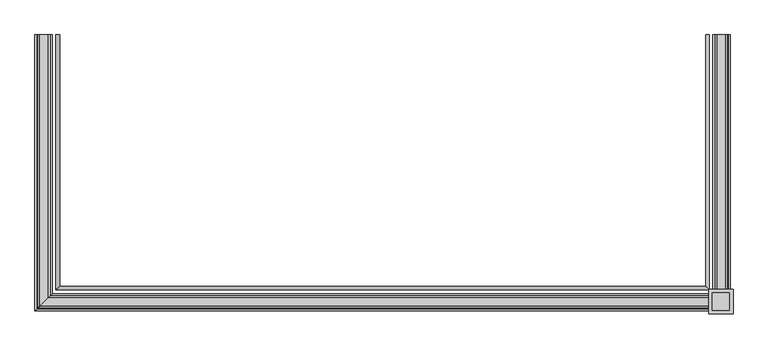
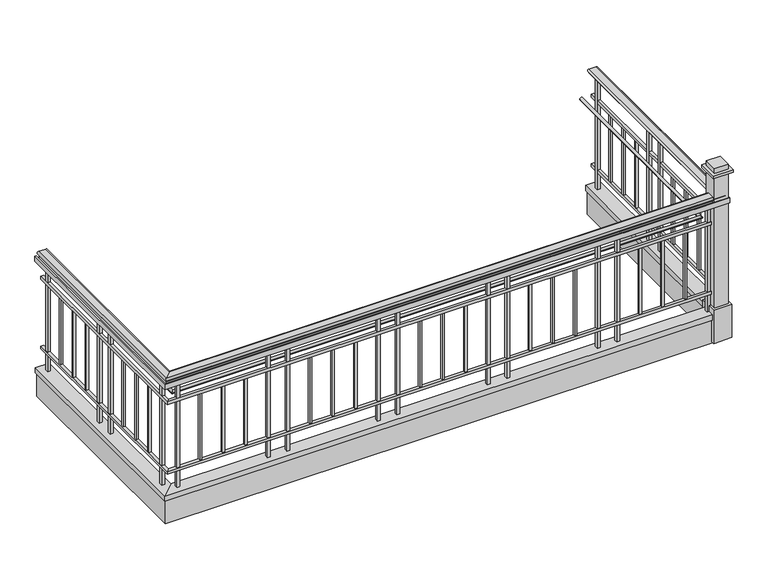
"""IFC4 building model written with IfcOpenShell, lengths in millimetres: railing geometry, Deco Type."""

from ifc_helpers import new_model, si_unit, frame, origin, place, context, project, spatial, polyline, circle_curve, ellipse_curve, outline, extrude, faceted_brep, source, transform, mapped, element, save
from ifc_brep_helpers import plane_surface, cylinder_surface, advanced_brep


def railing_eb418aec(model_context):
    return source(origin(), model_context, "Body", "SolidModel", [
        advanced_brep(
        [(-11325.7002872, -7864.1661799, 4146.55), (-11325.7002872, -7864.1661799, 4124.3248415), (-11325.7002872, -7864.1661799, 4114.8), (-11389.0500398, -7864.1661799, 4114.8), (-11389.0500398, -7864.1661799, 4124.261629), (-11389.0500398, -7864.1661799, 4146.55), (-11325.7002872, -9707.4039273, 4146.55), (-11325.7002872, -9707.4039273, 4124.3248415), (-11325.7002872, -9707.4039273, 4114.8), (-11389.0500398, -9770.7536799, 4114.8), (-11389.0500398, -9770.7536799, 4124.261629), (-11389.0500398, -9770.7536799, 4146.55), (-6640.6872924, -9707.4039273, 4146.55), (-6640.6872924, -9707.4039273, 4124.3248415), (-6640.6872924, -9707.4039273, 4114.8), (-6577.3375398, -9770.7536799, 4114.8), (-6577.3375398, -9770.7536799, 4124.261629), (-6577.3375398, -9770.7536799, 4146.55), (-6640.6872924, -7864.1661799, 4146.55), (-6577.3375398, -7864.1661799, 4146.55), (-6577.3375398, -7864.1661799, 4124.261629), (-6577.3375398, -7864.1661799, 4114.8), (-6640.6872924, -7864.1661799, 4114.8), (-6640.6872924, -7864.1661799, 4124.3248415)],
        [
            (0, 1, circle_curve(frame((-11325.7002872, -7864.1661799, 4135.4374207), z_axis=(0.0, 1.0, 0.0), x_axis=(-1.0, 0.0, 0.0)), 11.1125793)),
            (1, 2),
            (2, 3),
            (3, 4),
            (4, 5, circle_curve(frame((-11389.0500398, -7864.1661799, 4135.4058145), z_axis=(0.0, 1.0, 0.0), x_axis=(-1.0, 0.0, 0.0)), 11.1441855)),
            (5, 0),
            (0, 6),
            (6, 7, ellipse_curve(frame((-11325.7002872, -9707.4039273, 4135.4374207), z_axis=(-0.7071067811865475, 0.7071067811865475, 0.0), x_axis=(0.7071067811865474, 0.7071067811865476, 0.0)), 15.7155603, 11.1125793)),
            (7, 1),
            (7, 8),
            (8, 2),
            (8, 9),
            (9, 3),
            (9, 10),
            (10, 4),
            (10, 11, ellipse_curve(frame((-11389.0500398, -9770.7536799, 4135.4058145), z_axis=(-0.7071067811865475, 0.7071067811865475, 0.0), x_axis=(0.7071067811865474, 0.7071067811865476, 0.0)), 15.7602583, 11.1441855)),
            (11, 5),
            (11, 6),
            (6, 12),
            (12, 13, ellipse_curve(frame((-6640.6872924, -9707.4039273, 4135.4374207), z_axis=(-0.7071067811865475, -0.7071067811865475, 0.0), x_axis=(-0.7071067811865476, 0.7071067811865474, 0.0)), 15.7155603, 11.1125793)),
            (13, 7),
            (13, 14),
            (14, 8),
            (14, 15),
            (15, 9),
            (15, 16),
            (16, 10),
            (16, 17, ellipse_curve(frame((-6577.3375398, -9770.7536799, 4135.4058145), z_axis=(-0.7071067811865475, -0.7071067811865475, 0.0), x_axis=(-0.7071067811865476, 0.7071067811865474, 0.0)), 15.7602583, 11.1441855)),
            (17, 11),
            (17, 12),
            (18, 19),
            (19, 20, circle_curve(frame((-6577.3375398, -7864.1661799, 4135.4058145), z_axis=(0.0, 1.0, 0.0), x_axis=(1.0, 0.0, 0.0)), 11.1441855)),
            (20, 21),
            (21, 22),
            (22, 23),
            (23, 18, circle_curve(frame((-6640.6872924, -7864.1661799, 4135.4374207), z_axis=(0.0, 1.0, 0.0), x_axis=(1.0, 0.0, 0.0)), 11.1125793)),
            (12, 18),
            (23, 13),
            (22, 14),
            (21, 15),
            (20, 16),
            (19, 17),
        ],
        [
            plane_surface(frame((-11357.3000398, -7864.1661799, 4114.8), z_axis=(0.0, 1.0, 0.0), x_axis=(0.0, 0.0, -1.0))),
            cylinder_surface(frame((-11325.7002872, -7864.1661799, 4135.4374207), z_axis=(0.0, 1.0, 0.0), x_axis=(-1.0, 0.0, 0.0)), 11.1125793),
            plane_surface(frame((-11325.7002872, -7864.1661799, 4124.3248415), z_axis=(1.0, 0.0, 0.0), x_axis=(0.0, -1.0, 0.0))),
            plane_surface(frame((-11325.7002872, -7864.1661799, 4114.8), z_axis=(0.0, 0.0, -1.0), x_axis=(0.0, -1.0, 0.0))),
            plane_surface(frame((-11389.0500398, -7864.1661799, 4114.8), z_axis=(-1.0, 0.0, 0.0), x_axis=(0.0, -1.0, 0.0))),
            cylinder_surface(frame((-11389.0500398, -7864.1661799, 4135.4058145), z_axis=(0.0, 1.0, 0.0), x_axis=(-1.0, 0.0, 0.0)), 11.1441855),
            plane_surface(frame((-11389.0500398, -7864.1661799, 4146.55), z_axis=(0.0, 0.0, 1.0), x_axis=(0.0, -1.0, 0.0))),
            cylinder_surface(frame((-11357.3000398, -9707.4039273, 4135.4374207), z_axis=(-1.0, 0.0, 0.0), x_axis=(0.0, -1.0, 0.0)), 11.1125793),
            plane_surface(frame((-11325.7002872, -9707.4039273, 4124.3248415), z_axis=(0.0, 1.0, 0.0), x_axis=(1.0, 0.0, 0.0))),
            plane_surface(frame((-11325.7002872, -9707.4039273, 4114.8), z_axis=(0.0, 0.0, -1.0), x_axis=(1.0, 0.0, 0.0))),
            plane_surface(frame((-11389.0500398, -9770.7536799, 4114.8), z_axis=(0.0, -1.0, 0.0), x_axis=(1.0, 0.0, 0.0))),
            cylinder_surface(frame((-11357.3000398, -9770.7536799, 4135.4058145), z_axis=(-1.0, 0.0, 0.0), x_axis=(0.0, -1.0, 0.0)), 11.1441855),
            plane_surface(frame((-11389.0500398, -9770.7536799, 4146.55), z_axis=(0.0, 0.0, 1.0), x_axis=(1.0, 0.0, 0.0))),
            plane_surface(frame((-6609.0875398, -7864.1661799, 4114.8), z_axis=(0.0, 1.0, 0.0), x_axis=(0.0, 0.0, 1.0))),
            cylinder_surface(frame((-6640.6872924, -9739.0036799, 4135.4374207), z_axis=(0.0, -1.0, 0.0), x_axis=(1.0, 0.0, 0.0)), 11.1125793),
            plane_surface(frame((-6640.6872924, -9707.4039273, 4124.3248415), z_axis=(-1.0, 0.0, 0.0), x_axis=(0.0, 1.0, 0.0))),
            plane_surface(frame((-6640.6872924, -9707.4039273, 4114.8), z_axis=(0.0, 0.0, -1.0), x_axis=(0.0, 1.0, 0.0))),
            plane_surface(frame((-6577.3375398, -9770.7536799, 4114.8), z_axis=(1.0, 0.0, 0.0), x_axis=(0.0, 1.0, 0.0))),
            cylinder_surface(frame((-6577.3375398, -9739.0036799, 4135.4058145), z_axis=(0.0, -1.0, 0.0), x_axis=(1.0, 0.0, 0.0)), 11.1441855),
            plane_surface(frame((-6577.3375398, -9770.7536799, 4146.55), z_axis=(0.0, 0.0, 1.0), x_axis=(0.0, 1.0, 0.0))),
        ],
        [
            (0, [[1, 2, 3, 4, 5, 6]]),
            (1, [[-1, 7, 8, 9]]),
            (2, [[-2, -9, 10, 11]]),
            (3, [[-3, -11, 12, 13]]),
            (4, [[-4, -13, 14, 15]]),
            (5, [[-5, -15, 16, 17]]),
            (6, [[-6, -17, 18, -7]]),
            (7, [[-8, 19, 20, 21]]),
            (8, [[-10, -21, 22, 23]]),
            (9, [[-12, -23, 24, 25]]),
            (10, [[-14, -25, 26, 27]]),
            (11, [[-16, -27, 28, 29]]),
            (12, [[-18, -29, 30, -19]]),
            (13, [[31, 32, 33, 34, 35, 36]]),
            (14, [[-20, 37, -36, 38]]),
            (15, [[-22, -38, -35, 39]]),
            (16, [[-24, -39, -34, 40]]),
            (17, [[-26, -40, -33, 41]]),
            (18, [[-28, -41, -32, 42]]),
            (19, [[-30, -42, -31, -37]]),
        ],
    ),
        faceted_brep([(-11382.7751635, -7864.1661799, 4114.8), (-11370.0751635, -7864.1661799, 4114.8), (-11370.0751635, -7864.1661799, 4070.35), (-11382.7751635, -7864.1661799, 4070.35), (-11382.7751635, -9764.4788036, 4114.8), (-11370.0751635, -9751.7788036, 4114.8), (-11370.0751635, -9751.7788036, 4070.35), (-11382.7751635, -9764.4788036, 4070.35), (-6583.6124161, -9764.4788036, 4114.8), (-6596.3124161, -9751.7788036, 4114.8), (-6596.3124161, -9751.7788036, 4070.35), (-6583.6124161, -9764.4788036, 4070.35), (-6583.6124161, -7864.1661799, 4114.8), (-6583.6124161, -7864.1661799, 4070.35), (-6596.3124161, -7864.1661799, 4070.35), (-6596.3124161, -7864.1661799, 4114.8)], [[[0, 1, 2, 3]], [[1, 0, 4, 5]], [[2, 1, 5, 6]], [[3, 2, 6, 7]], [[0, 3, 7, 4]], [[5, 4, 8, 9]], [[6, 5, 9, 10]], [[7, 6, 10, 11]], [[4, 7, 11, 8]], [[12, 13, 14, 15]], [[9, 8, 12, 15]], [[10, 9, 15, 14]], [[11, 10, 14, 13]], [[8, 11, 13, 12]]]),
        faceted_brep([(-11420.8751635, -7864.1661799, 4114.8), (-11408.1751635, -7864.1661799, 4114.8), (-11408.1751635, -7864.1661799, 4070.35), (-11420.8751635, -7864.1661799, 4070.35), (-11420.8751635, -9802.5788036, 4114.8), (-11408.1751635, -9789.8788036, 4114.8), (-11408.1751635, -9789.8788036, 4070.35), (-11420.8751635, -9802.5788036, 4070.35), (-6545.5124161, -9802.5788036, 4114.8), (-6558.2124161, -9789.8788036, 4114.8), (-6558.2124161, -9789.8788036, 4070.35), (-6545.5124161, -9802.5788036, 4070.35), (-6545.5124161, -7864.1661799, 4114.8), (-6545.5124161, -7864.1661799, 4070.35), (-6558.2124161, -7864.1661799, 4070.35), (-6558.2124161, -7864.1661799, 4114.8)], [[[0, 1, 2, 3]], [[1, 0, 4, 5]], [[2, 1, 5, 6]], [[3, 2, 6, 7]], [[0, 3, 7, 4]], [[5, 4, 8, 9]], [[6, 5, 9, 10]], [[7, 6, 10, 11]], [[4, 7, 11, 8]], [[12, 13, 14, 15]], [[9, 8, 12, 15]], [[10, 9, 15, 14]], [[11, 10, 14, 13]], [[8, 11, 13, 12]]]),
        faceted_brep([(-11370.0000398, -7864.1661799, 3911.6), (-11344.6000398, -7864.1661799, 3911.6), (-11344.6000398, -7864.1661799, 3886.2), (-11370.0000398, -7864.1661799, 3886.2), (-11370.0000398, -9751.7036799, 3911.6), (-11344.6000398, -9726.3036799, 3911.6), (-11344.6000398, -9726.3036799, 3886.2), (-11370.0000398, -9751.7036799, 3886.2), (-6596.3875398, -9751.7036799, 3911.6), (-6621.7875398, -9726.3036799, 3911.6), (-6621.7875398, -9726.3036799, 3886.2), (-6596.3875398, -9751.7036799, 3886.2), (-6596.3875398, -7864.1661799, 3911.6), (-6596.3875398, -7864.1661799, 3886.2), (-6621.7875398, -7864.1661799, 3886.2), (-6621.7875398, -7864.1661799, 3911.6)], [[[0, 1, 2, 3]], [[1, 0, 4, 5]], [[2, 1, 5, 6]], [[3, 2, 6, 7]], [[0, 3, 7, 4]], [[5, 4, 8, 9]], [[6, 5, 9, 10]], [[7, 6, 10, 11]], [[4, 7, 11, 8]], [[12, 13, 14, 15]], [[9, 8, 12, 15]], [[10, 9, 15, 14]], [[11, 10, 14, 13]], [[8, 11, 13, 12]]]),
        advanced_brep(
        [(-11247.7625398, -7864.1661799, 3898.9), (-11273.1625398, -7864.1661799, 3898.9), (-11247.7625398, -9629.4661799, 3898.9), (-11273.1625398, -9654.8661799, 3898.9), (-6718.6250398, -9629.4661799, 3898.9), (-6693.2250398, -9654.8661799, 3898.9), (-6718.6250398, -7864.1661799, 3898.9), (-6693.2250398, -7864.1661799, 3898.9)],
        [
            (0, 1, circle_curve(frame((-11260.4625398, -7864.1661799, 3898.9), z_axis=(0.0, 1.0, 0.0), x_axis=(-1.0, 0.0, 0.0)), 12.7)),
            (1, 0, circle_curve(frame((-11260.4625398, -7864.1661799, 3898.9), z_axis=(0.0, 1.0, 0.0), x_axis=(-1.0, 0.0, 0.0)), 12.7)),
            (0, 2),
            (2, 3, ellipse_curve(frame((-11260.4625398, -9642.1661799, 3898.9), z_axis=(-0.7071067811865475, 0.7071067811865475, 0.0), x_axis=(0.7071067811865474, 0.7071067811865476, 0.0)), 17.9605122, 12.7)),
            (3, 1),
            (3, 2, ellipse_curve(frame((-11260.4625398, -9642.1661799, 3898.9), z_axis=(-0.7071067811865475, 0.7071067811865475, 0.0), x_axis=(0.7071067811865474, 0.7071067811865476, 0.0)), 17.9605122, 12.7)),
            (2, 4),
            (4, 5, ellipse_curve(frame((-6705.9250398, -9642.1661799, 3898.9), z_axis=(-0.7071067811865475, -0.7071067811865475, 0.0), x_axis=(-0.7071067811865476, 0.7071067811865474, 0.0)), 17.9605122, 12.7)),
            (5, 3),
            (5, 4, ellipse_curve(frame((-6705.9250398, -9642.1661799, 3898.9), z_axis=(-0.7071067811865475, -0.7071067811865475, 0.0), x_axis=(-0.7071067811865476, 0.7071067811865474, 0.0)), 17.9605122, 12.7)),
            (6, 7, circle_curve(frame((-6705.9250398, -7864.1661799, 3898.9), z_axis=(0.0, 1.0, 0.0), x_axis=(1.0, 0.0, 0.0)), 12.7)),
            (7, 6, circle_curve(frame((-6705.9250398, -7864.1661799, 3898.9), z_axis=(0.0, 1.0, 0.0), x_axis=(1.0, 0.0, 0.0)), 12.7)),
            (4, 6),
            (7, 5),
        ],
        [
            plane_surface(frame((-11260.4625398, -7864.1661799, 3898.9), z_axis=(0.0, 1.0, 0.0), x_axis=(0.0, 0.0, -1.0))),
            cylinder_surface(frame((-11260.4625398, -7864.1661799, 3898.9), z_axis=(0.0, 1.0, 0.0), x_axis=(-1.0, 0.0, 0.0)), 12.7),
            cylinder_surface(frame((-11260.4625398, -9642.1661799, 3898.9), z_axis=(-1.0, 0.0, 0.0), x_axis=(0.0, -1.0, 0.0)), 12.7),
            plane_surface(frame((-6705.9250398, -7864.1661799, 3898.9), z_axis=(0.0, 1.0, 0.0), x_axis=(0.0, 0.0, 1.0))),
            cylinder_surface(frame((-6705.9250398, -9642.1661799, 3898.9), z_axis=(0.0, -1.0, 0.0), x_axis=(1.0, 0.0, 0.0)), 12.7),
        ],
        [
            (0, [[1, 2]]),
            (1, [[-1, 3, 4, 5]]),
            (1, [[-2, -5, 6, -3]]),
            (2, [[-4, 7, 8, 9]]),
            (2, [[-6, -9, 10, -7]]),
            (3, [[11, 12]]),
            (4, [[-8, 13, -12, 14]]),
            (4, [[-10, -14, -11, -13]]),
        ],
    ),
        faceted_brep([(-11370.0000398, -7864.1661799, 3276.6), (-11344.6000398, -7864.1661799, 3276.6), (-11344.6000398, -7864.1661799, 3251.2), (-11370.0000398, -7864.1661799, 3251.2), (-11370.0000398, -9751.7036799, 3276.6), (-11344.6000398, -9726.3036799, 3276.6), (-11344.6000398, -9726.3036799, 3251.2), (-11370.0000398, -9751.7036799, 3251.2), (-6596.3875398, -9751.7036799, 3276.6), (-6621.7875398, -9726.3036799, 3276.6), (-6621.7875398, -9726.3036799, 3251.2), (-6596.3875398, -9751.7036799, 3251.2), (-6596.3875398, -7864.1661799, 3276.6), (-6596.3875398, -7864.1661799, 3251.2), (-6621.7875398, -7864.1661799, 3251.2), (-6621.7875398, -7864.1661799, 3276.6)], [[[0, 1, 2, 3]], [[1, 0, 4, 5]], [[2, 1, 5, 6]], [[3, 2, 6, 7]], [[0, 3, 7, 4]], [[5, 4, 8, 9]], [[6, 5, 9, 10]], [[7, 6, 10, 11]], [[4, 7, 11, 8]], [[12, 13, 14, 15]], [[9, 8, 12, 15]], [[10, 9, 15, 14]], [[11, 10, 14, 13]], [[8, 11, 13, 12]]]),
        faceted_brep([(-11298.6376635, -7864.1661799, 3097.0362864), (-11298.6376635, -7864.1661799, 3048.0), (-11311.3376635, -7864.1661799, 3048.0), (-11311.3376635, -7864.1661799, 3084.3362864), (-11403.4126635, -7864.1661799, 3084.3362864), (-11403.4126635, -7864.1661799, 3048.0), (-11416.1126635, -7864.1661799, 3048.0), (-11416.1126635, -7864.1661799, 3097.0362864), (-11298.6376635, -9680.3413036, 3097.0362864), (-11298.6376635, -9680.3413036, 3048.0), (-11311.3376635, -9693.0413036, 3048.0), (-11311.3376635, -9693.0413036, 3084.3362864), (-11403.4126635, -9785.1163036, 3084.3362864), (-11403.4126635, -9785.1163036, 3048.0), (-11416.1126635, -9797.8163036, 3048.0), (-11416.1126635, -9797.8163036, 3097.0362864), (-6667.7499161, -9680.3413036, 3097.0362864), (-6667.7499161, -9680.3413036, 3048.0), (-6655.0499161, -9693.0413036, 3048.0), (-6655.0499161, -9693.0413036, 3084.3362864), (-6562.9749161, -9785.1163036, 3084.3362864), (-6562.9749161, -9785.1163036, 3048.0), (-6550.2749161, -9797.8163036, 3048.0), (-6550.2749161, -9797.8163036, 3097.0362864), (-6667.7499161, -7864.1661799, 3097.0362864), (-6550.2749161, -7864.1661799, 3097.0362864), (-6550.2749161, -7864.1661799, 3048.0), (-6562.9749161, -7864.1661799, 3048.0), (-6562.9749161, -7864.1661799, 3084.3362864), (-6655.0499161, -7864.1661799, 3084.3362864), (-6655.0499161, -7864.1661799, 3048.0), (-6667.7499161, -7864.1661799, 3048.0)], [[[0, 1, 2, 3, 4, 5, 6, 7]], [[1, 0, 8, 9]], [[2, 1, 9, 10]], [[3, 2, 10, 11]], [[4, 3, 11, 12]], [[5, 4, 12, 13]], [[6, 5, 13, 14]], [[7, 6, 14, 15]], [[0, 7, 15, 8]], [[9, 8, 16, 17]], [[10, 9, 17, 18]], [[11, 10, 18, 19]], [[12, 11, 19, 20]], [[13, 12, 20, 21]], [[14, 13, 21, 22]], [[15, 14, 22, 23]], [[8, 15, 23, 16]], [[24, 25, 26, 27, 28, 29, 30, 31]], [[17, 16, 24, 31]], [[18, 17, 31, 30]], [[19, 18, 30, 29]], [[20, 19, 29, 28]], [[21, 20, 28, 27]], [[22, 21, 27, 26]], [[23, 22, 26, 25]], [[16, 23, 25, 24]]]),
        faceted_brep([(-11311.3376635, -7864.1661799, 3084.3362864), (-11311.3376635, -7864.1661799, 2830.3362864), (-11403.4126635, -7864.1661799, 2830.3362864), (-11403.4126635, -7864.1661799, 3084.3362864), (-11311.3376635, -9693.0413036, 3084.3362864), (-11311.3376635, -9693.0413036, 2830.3362864), (-11403.4126635, -9785.1163036, 2830.3362864), (-11403.4126635, -9785.1163036, 3084.3362864), (-6655.0499161, -9693.0413036, 3084.3362864), (-6655.0499161, -9693.0413036, 2830.3362864), (-6562.9749161, -9785.1163036, 2830.3362864), (-6562.9749161, -9785.1163036, 3084.3362864), (-6655.0499161, -7864.1661799, 3084.3362864), (-6562.9749161, -7864.1661799, 3084.3362864), (-6562.9749161, -7864.1661799, 2830.3362864), (-6655.0499161, -7864.1661799, 2830.3362864)], [[[0, 1, 2, 3]], [[1, 0, 4, 5]], [[2, 1, 5, 6]], [[3, 2, 6, 7]], [[0, 3, 7, 4]], [[5, 4, 8, 9]], [[6, 5, 9, 10]], [[7, 6, 10, 11]], [[4, 7, 11, 8]], [[12, 13, 14, 15]], [[9, 8, 12, 15]], [[10, 9, 15, 14]], [[11, 10, 14, 13]], [[8, 11, 13, 12]]]),
        extrude(outline(polyline([(-6599.1656648, -7959.4570347), (-6624.5656648, -7959.4570347), (-6624.5656648, -7934.0570347), (-6599.1656648, -7934.0570347), (-6599.1656648, -7959.4570347)])), frame((0.0, 0.0, 3097.0362864), z_axis=(0.0, 0.0, 1.0), x_axis=(1.0, 0.0, 0.0)), (0.0, 0.0, 1.0), 1017.7637136),
        extrude(outline(polyline([(-6602.3406648, -8148.9940292), (-6621.3906648, -8148.9940292), (-6621.3906648, -8129.9440292), (-6602.3406648, -8129.9440292), (-6602.3406648, -8148.9940292)])), frame((0.0, 0.0, 3276.6), z_axis=(0.0, 0.0, 1.0), x_axis=(1.0, 0.0, 0.0)), (0.0, 0.0, 1.0), 609.6),
        extrude(outline(polyline([(-6602.3406648, -8341.7060237), (-6621.3906648, -8341.7060237), (-6621.3906648, -8322.6560237), (-6602.3406648, -8322.6560237), (-6602.3406648, -8341.7060237)])), frame((0.0, 0.0, 3276.6), z_axis=(0.0, 0.0, 1.0), x_axis=(1.0, 0.0, 0.0)), (0.0, 0.0, 1.0), 609.6),
        extrude(outline(polyline([(-6602.3406648, -8534.4180182), (-6621.3906648, -8534.4180182), (-6621.3906648, -8515.3680182), (-6602.3406648, -8515.3680182), (-6602.3406648, -8534.4180182)])), frame((0.0, 0.0, 3276.6), z_axis=(0.0, 0.0, 1.0), x_axis=(1.0, 0.0, 0.0)), (0.0, 0.0, 1.0), 609.6),
        extrude(outline(polyline([(-6599.1656648, -8730.3050126), (-6624.5656648, -8730.3050126), (-6624.5656648, -8704.9050126), (-6599.1656648, -8704.9050126), (-6599.1656648, -8730.3050126)])), frame((0.0, 0.0, 3097.0362864), z_axis=(0.0, 0.0, 1.0), x_axis=(1.0, 0.0, 0.0)), (0.0, 0.0, 1.0), 1017.7637136),
        extrude(outline(polyline([(-6599.1656648, -8895.4867222), (-6624.5656648, -8895.4867222), (-6624.5656648, -8870.0867222), (-6599.1656648, -8870.0867222), (-6599.1656648, -8895.4867222)])), frame((0.0, 0.0, 3097.0362864), z_axis=(0.0, 0.0, 1.0), x_axis=(1.0, 0.0, 0.0)), (0.0, 0.0, 1.0), 1017.7637136),
        extrude(outline(polyline([(-6602.3406648, -9085.0237167), (-6621.3906648, -9085.0237167), (-6621.3906648, -9065.9737167), (-6602.3406648, -9065.9737167), (-6602.3406648, -9085.0237167)])), frame((0.0, 0.0, 3276.6), z_axis=(0.0, 0.0, 1.0), x_axis=(1.0, 0.0, 0.0)), (0.0, 0.0, 1.0), 609.6),
        extrude(outline(polyline([(-6602.3406648, -9277.7357112), (-6621.3906648, -9277.7357112), (-6621.3906648, -9258.6857112), (-6602.3406648, -9258.6857112), (-6602.3406648, -9277.7357112)])), frame((0.0, 0.0, 3276.6), z_axis=(0.0, 0.0, 1.0), x_axis=(1.0, 0.0, 0.0)), (0.0, 0.0, 1.0), 609.6),
        extrude(outline(polyline([(-6602.3406648, -9470.4477057), (-6621.3906648, -9470.4477057), (-6621.3906648, -9451.3977057), (-6602.3406648, -9451.3977057), (-6602.3406648, -9470.4477057)])), frame((0.0, 0.0, 3276.6), z_axis=(0.0, 0.0, 1.0), x_axis=(1.0, 0.0, 0.0)), (0.0, 0.0, 1.0), 609.6),
        extrude(outline(polyline([(-6599.1656648, -9666.3347001), (-6624.5656648, -9666.3347001), (-6624.5656648, -9640.9347001), (-6599.1656648, -9640.9347001), (-6599.1656648, -9666.3347001)])), frame((0.0, 0.0, 3097.0362864), z_axis=(0.0, 0.0, 1.0), x_axis=(1.0, 0.0, 0.0)), (0.0, 0.0, 1.0), 1017.7637136),
        extrude(outline(polyline([(-6708.2595986, -9748.9255549), (-6708.2595986, -9723.5255549), (-6682.8595986, -9723.5255549), (-6682.8595986, -9748.9255549), (-6708.2595986, -9748.9255549)])), frame((0.0, 0.0, 3097.0362864), z_axis=(0.0, 0.0, 1.0), x_axis=(1.0, 0.0, 0.0)), (0.0, 0.0, 1.0), 1017.7637136),
        extrude(outline(polyline([(-6900.3704442, -9745.7505549), (-6900.3704442, -9726.7005549), (-6881.3204442, -9726.7005549), (-6881.3204442, -9745.7505549), (-6900.3704442, -9745.7505549)])), frame((0.0, 0.0, 3276.6), z_axis=(0.0, 0.0, 1.0), x_axis=(1.0, 0.0, 0.0)), (0.0, 0.0, 1.0), 609.6),
        extrude(outline(polyline([(-7095.6562898, -9745.7505549), (-7095.6562898, -9726.7005549), (-7076.6062898, -9726.7005549), (-7076.6062898, -9745.7505549), (-7095.6562898, -9745.7505549)])), frame((0.0, 0.0, 3276.6), z_axis=(0.0, 0.0, 1.0), x_axis=(1.0, 0.0, 0.0)), (0.0, 0.0, 1.0), 609.6),
        extrude(outline(polyline([(-7290.9421354, -9745.7505549), (-7290.9421354, -9726.7005549), (-7271.8921354, -9726.7005549), (-7271.8921354, -9745.7505549), (-7290.9421354, -9745.7505549)])), frame((0.0, 0.0, 3276.6), z_axis=(0.0, 0.0, 1.0), x_axis=(1.0, 0.0, 0.0)), (0.0, 0.0, 1.0), 609.6),
        extrude(outline(polyline([(-7489.402981, -9748.9255549), (-7489.402981, -9723.5255549), (-7464.002981, -9723.5255549), (-7464.002981, -9748.9255549), (-7489.402981, -9748.9255549)])), frame((0.0, 0.0, 3097.0362864), z_axis=(0.0, 0.0, 1.0), x_axis=(1.0, 0.0, 0.0)), (0.0, 0.0, 1.0), 1017.7637136),
        extrude(outline(polyline([(-7656.7908486, -9748.9255549), (-7656.7908486, -9723.5255549), (-7631.3908486, -9723.5255549), (-7631.3908486, -9748.9255549), (-7656.7908486, -9748.9255549)])), frame((0.0, 0.0, 3097.0362864), z_axis=(0.0, 0.0, 1.0), x_axis=(1.0, 0.0, 0.0)), (0.0, 0.0, 1.0), 1017.7637136),
        extrude(outline(polyline([(-7848.9016942, -9745.7505549), (-7848.9016942, -9726.7005549), (-7829.8516942, -9726.7005549), (-7829.8516942, -9745.7505549), (-7848.9016942, -9745.7505549)])), frame((0.0, 0.0, 3276.6), z_axis=(0.0, 0.0, 1.0), x_axis=(1.0, 0.0, 0.0)), (0.0, 0.0, 1.0), 609.6),
        extrude(outline(polyline([(-8044.1875398, -9745.7505549), (-8044.1875398, -9726.7005549), (-8025.1375398, -9726.7005549), (-8025.1375398, -9745.7505549), (-8044.1875398, -9745.7505549)])), frame((0.0, 0.0, 3276.6), z_axis=(0.0, 0.0, 1.0), x_axis=(1.0, 0.0, 0.0)), (0.0, 0.0, 1.0), 609.6),
        extrude(outline(polyline([(-8239.4733854, -9745.7505549), (-8239.4733854, -9726.7005549), (-8220.4233854, -9726.7005549), (-8220.4233854, -9745.7505549), (-8239.4733854, -9745.7505549)])), frame((0.0, 0.0, 3276.6), z_axis=(0.0, 0.0, 1.0), x_axis=(1.0, 0.0, 0.0)), (0.0, 0.0, 1.0), 609.6),
        extrude(outline(polyline([(-8437.934231, -9748.9255549), (-8437.934231, -9723.5255549), (-8412.534231, -9723.5255549), (-8412.534231, -9748.9255549), (-8437.934231, -9748.9255549)])), frame((0.0, 0.0, 3097.0362864), z_axis=(0.0, 0.0, 1.0), x_axis=(1.0, 0.0, 0.0)), (0.0, 0.0, 1.0), 1017.7637136),
        extrude(outline(polyline([(-8605.3220986, -9748.9255549), (-8605.3220986, -9723.5255549), (-8579.9220986, -9723.5255549), (-8579.9220986, -9748.9255549), (-8605.3220986, -9748.9255549)])), frame((0.0, 0.0, 3097.0362864), z_axis=(0.0, 0.0, 1.0), x_axis=(1.0, 0.0, 0.0)), (0.0, 0.0, 1.0), 1017.7637136),
        extrude(outline(polyline([(-8797.4329442, -9745.7505549), (-8797.4329442, -9726.7005549), (-8778.3829442, -9726.7005549), (-8778.3829442, -9745.7505549), (-8797.4329442, -9745.7505549)])), frame((0.0, 0.0, 3276.6), z_axis=(0.0, 0.0, 1.0), x_axis=(1.0, 0.0, 0.0)), (0.0, 0.0, 1.0), 609.6),
        extrude(outline(polyline([(-8992.7187898, -9745.7505549), (-8992.7187898, -9726.7005549), (-8973.6687898, -9726.7005549), (-8973.6687898, -9745.7505549), (-8992.7187898, -9745.7505549)])), frame((0.0, 0.0, 3276.6), z_axis=(0.0, 0.0, 1.0), x_axis=(1.0, 0.0, 0.0)), (0.0, 0.0, 1.0), 609.6),
        extrude(outline(polyline([(-9188.0046354, -9745.7505549), (-9188.0046354, -9726.7005549), (-9168.9546354, -9726.7005549), (-9168.9546354, -9745.7505549), (-9188.0046354, -9745.7505549)])), frame((0.0, 0.0, 3276.6), z_axis=(0.0, 0.0, 1.0), x_axis=(1.0, 0.0, 0.0)), (0.0, 0.0, 1.0), 609.6),
        extrude(outline(polyline([(-9386.465481, -9748.9255549), (-9386.465481, -9723.5255549), (-9361.065481, -9723.5255549), (-9361.065481, -9748.9255549), (-9386.465481, -9748.9255549)])), frame((0.0, 0.0, 3097.0362864), z_axis=(0.0, 0.0, 1.0), x_axis=(1.0, 0.0, 0.0)), (0.0, 0.0, 1.0), 1017.7637136),
        extrude(outline(polyline([(-9553.8533486, -9748.9255549), (-9553.8533486, -9723.5255549), (-9528.4533486, -9723.5255549), (-9528.4533486, -9748.9255549), (-9553.8533486, -9748.9255549)])), frame((0.0, 0.0, 3097.0362864), z_axis=(0.0, 0.0, 1.0), x_axis=(1.0, 0.0, 0.0)), (0.0, 0.0, 1.0), 1017.7637136),
        extrude(outline(polyline([(-9745.9641942, -9745.7505549), (-9745.9641942, -9726.7005549), (-9726.9141942, -9726.7005549), (-9726.9141942, -9745.7505549), (-9745.9641942, -9745.7505549)])), frame((0.0, 0.0, 3276.6), z_axis=(0.0, 0.0, 1.0), x_axis=(1.0, 0.0, 0.0)), (0.0, 0.0, 1.0), 609.6),
        extrude(outline(polyline([(-9941.2500398, -9745.7505549), (-9941.2500398, -9726.7005549), (-9922.2000398, -9726.7005549), (-9922.2000398, -9745.7505549), (-9941.2500398, -9745.7505549)])), frame((0.0, 0.0, 3276.6), z_axis=(0.0, 0.0, 1.0), x_axis=(1.0, 0.0, 0.0)), (0.0, 0.0, 1.0), 609.6),
        extrude(outline(polyline([(-10136.5358854, -9745.7505549), (-10136.5358854, -9726.7005549), (-10117.4858854, -9726.7005549), (-10117.4858854, -9745.7505549), (-10136.5358854, -9745.7505549)])), frame((0.0, 0.0, 3276.6), z_axis=(0.0, 0.0, 1.0), x_axis=(1.0, 0.0, 0.0)), (0.0, 0.0, 1.0), 609.6),
        extrude(outline(polyline([(-10334.996731, -9748.9255549), (-10334.996731, -9723.5255549), (-10309.596731, -9723.5255549), (-10309.596731, -9748.9255549), (-10334.996731, -9748.9255549)])), frame((0.0, 0.0, 3097.0362864), z_axis=(0.0, 0.0, 1.0), x_axis=(1.0, 0.0, 0.0)), (0.0, 0.0, 1.0), 1017.7637136),
        extrude(outline(polyline([(-10502.3845986, -9748.9255549), (-10502.3845986, -9723.5255549), (-10476.9845986, -9723.5255549), (-10476.9845986, -9748.9255549), (-10502.3845986, -9748.9255549)])), frame((0.0, 0.0, 3097.0362864), z_axis=(0.0, 0.0, 1.0), x_axis=(1.0, 0.0, 0.0)), (0.0, 0.0, 1.0), 1017.7637136),
        extrude(outline(polyline([(-10694.4954442, -9745.7505549), (-10694.4954442, -9726.7005549), (-10675.4454442, -9726.7005549), (-10675.4454442, -9745.7505549), (-10694.4954442, -9745.7505549)])), frame((0.0, 0.0, 3276.6), z_axis=(0.0, 0.0, 1.0), x_axis=(1.0, 0.0, 0.0)), (0.0, 0.0, 1.0), 609.6),
        extrude(outline(polyline([(-10889.7812898, -9745.7505549), (-10889.7812898, -9726.7005549), (-10870.7312898, -9726.7005549), (-10870.7312898, -9745.7505549), (-10889.7812898, -9745.7505549)])), frame((0.0, 0.0, 3276.6), z_axis=(0.0, 0.0, 1.0), x_axis=(1.0, 0.0, 0.0)), (0.0, 0.0, 1.0), 609.6),
        extrude(outline(polyline([(-11085.0671354, -9745.7505549), (-11085.0671354, -9726.7005549), (-11066.0171354, -9726.7005549), (-11066.0171354, -9745.7505549), (-11085.0671354, -9745.7505549)])), frame((0.0, 0.0, 3276.6), z_axis=(0.0, 0.0, 1.0), x_axis=(1.0, 0.0, 0.0)), (0.0, 0.0, 1.0), 609.6),
        extrude(outline(polyline([(-11283.527981, -9748.9255549), (-11283.527981, -9723.5255549), (-11258.127981, -9723.5255549), (-11258.127981, -9748.9255549), (-11283.527981, -9748.9255549)])), frame((0.0, 0.0, 3097.0362864), z_axis=(0.0, 0.0, 1.0), x_axis=(1.0, 0.0, 0.0)), (0.0, 0.0, 1.0), 1017.7637136),
        extrude(outline(polyline([(-11367.2219148, -9640.9347001), (-11341.8219148, -9640.9347001), (-11341.8219148, -9666.3347001), (-11367.2219148, -9666.3347001), (-11367.2219148, -9640.9347001)])), frame((0.0, 0.0, 3097.0362864), z_axis=(0.0, 0.0, 1.0), x_axis=(1.0, 0.0, 0.0)), (0.0, 0.0, 1.0), 1017.7637136),
        extrude(outline(polyline([(-11364.0469148, -9451.3977057), (-11344.9969148, -9451.3977057), (-11344.9969148, -9470.4477057), (-11364.0469148, -9470.4477057), (-11364.0469148, -9451.3977057)])), frame((0.0, 0.0, 3276.6), z_axis=(0.0, 0.0, 1.0), x_axis=(1.0, 0.0, 0.0)), (0.0, 0.0, 1.0), 609.6),
        extrude(outline(polyline([(-11364.0469148, -9258.6857112), (-11344.9969148, -9258.6857112), (-11344.9969148, -9277.7357112), (-11364.0469148, -9277.7357112), (-11364.0469148, -9258.6857112)])), frame((0.0, 0.0, 3276.6), z_axis=(0.0, 0.0, 1.0), x_axis=(1.0, 0.0, 0.0)), (0.0, 0.0, 1.0), 609.6),
        extrude(outline(polyline([(-11364.0469148, -9065.9737167), (-11344.9969148, -9065.9737167), (-11344.9969148, -9085.0237167), (-11364.0469148, -9085.0237167), (-11364.0469148, -9065.9737167)])), frame((0.0, 0.0, 3276.6), z_axis=(0.0, 0.0, 1.0), x_axis=(1.0, 0.0, 0.0)), (0.0, 0.0, 1.0), 609.6),
        extrude(outline(polyline([(-11367.2219148, -8870.0867222), (-11341.8219148, -8870.0867222), (-11341.8219148, -8895.4867222), (-11367.2219148, -8895.4867222), (-11367.2219148, -8870.0867222)])), frame((0.0, 0.0, 3097.0362864), z_axis=(0.0, 0.0, 1.0), x_axis=(1.0, 0.0, 0.0)), (0.0, 0.0, 1.0), 1017.7637136),
        extrude(outline(polyline([(-11367.2219148, -8704.9050126), (-11341.8219148, -8704.9050126), (-11341.8219148, -8730.3050126), (-11367.2219148, -8730.3050126), (-11367.2219148, -8704.9050126)])), frame((0.0, 0.0, 3097.0362864), z_axis=(0.0, 0.0, 1.0), x_axis=(1.0, 0.0, 0.0)), (0.0, 0.0, 1.0), 1017.7637136),
        extrude(outline(polyline([(-11364.0469148, -8515.3680182), (-11344.9969148, -8515.3680182), (-11344.9969148, -8534.4180182), (-11364.0469148, -8534.4180182), (-11364.0469148, -8515.3680182)])), frame((0.0, 0.0, 3276.6), z_axis=(0.0, 0.0, 1.0), x_axis=(1.0, 0.0, 0.0)), (0.0, 0.0, 1.0), 609.6),
        extrude(outline(polyline([(-11364.0469148, -8322.6560237), (-11344.9969148, -8322.6560237), (-11344.9969148, -8341.7060237), (-11364.0469148, -8341.7060237), (-11364.0469148, -8322.6560237)])), frame((0.0, 0.0, 3276.6), z_axis=(0.0, 0.0, 1.0), x_axis=(1.0, 0.0, 0.0)), (0.0, 0.0, 1.0), 609.6),
        extrude(outline(polyline([(-11364.0469148, -8129.9440292), (-11344.9969148, -8129.9440292), (-11344.9969148, -8148.9940292), (-11364.0469148, -8148.9940292), (-11364.0469148, -8129.9440292)])), frame((0.0, 0.0, 3276.6), z_axis=(0.0, 0.0, 1.0), x_axis=(1.0, 0.0, 0.0)), (0.0, 0.0, 1.0), 609.6),
        extrude(outline(polyline([(-11367.2219148, -7934.0570347), (-11341.8219148, -7934.0570347), (-11341.8219148, -7959.4570347), (-11367.2219148, -7959.4570347), (-11367.2219148, -7934.0570347)])), frame((0.0, 0.0, 3097.0362864), z_axis=(0.0, 0.0, 1.0), x_axis=(1.0, 0.0, 0.0)), (0.0, 0.0, 1.0), 1017.7637136),
        extrude(outline(polyline([(-6691.2406648, -9656.8505549), (-6532.4906648, -9656.8505549), (-6532.4906648, -9815.6005549), (-6691.2406648, -9815.6005549), (-6691.2406648, -9656.8505549)])), frame((0.0, 0.0, 2844.8), z_axis=(0.0, 0.0, 1.0), x_axis=(1.0, 0.0, 0.0)), (0.0, 0.0, 1.0), 304.8),
        extrude(outline(polyline([(-6672.1906648, -9675.9005549), (-6551.5406648, -9675.9005549), (-6551.5406648, -9796.5505549), (-6672.1906648, -9796.5505549), (-6672.1906648, -9675.9005549)])), frame((0.0, 0.0, 3149.6), z_axis=(0.0, 0.0, 1.0), x_axis=(1.0, 0.0, 0.0)), (0.0, 0.0, 1.0), 1270.0),
        extrude(outline(polyline([(-6697.5906648, -9821.9505549), (-6697.5906648, -9650.5005549), (-6526.1406648, -9650.5005549), (-6526.1406648, -9821.9505549), (-6697.5906648, -9821.9505549)]), holes=[polyline([(-6551.5406648, -9796.5505549), (-6551.5406648, -9675.9005549), (-6672.1906648, -9675.9005549), (-6672.1906648, -9796.5505549), (-6551.5406648, -9796.5505549)])]), frame((0.0, 0.0, 4352.925), z_axis=(0.0, 0.0, 1.0), x_axis=(1.0, 0.0, 0.0)), (0.0, 0.0, 1.0), 25.4),
    ])


if __name__ == "__main__":
    model = new_model("IFC4")
    model_context = context("Model", 3, world=origin())
    ifc_project = project(units=[si_unit("LENGTHUNIT", "METRE", prefix="MILLI")], contexts=[model_context])
    site = spatial("IfcSite", under=ifc_project)
    building = spatial("IfcBuilding", under=site)
    placement = place(None, origin())
    railing_shape = railing_eb418aec(model_context)
    element("IfcRailing", 1, ObjectType="Deco Type", at=placement, inside=building, context=model_context, shape_type="MappedRepresentation", body=[
        mapped(railing_shape, transform((0.0, 0.0, 0.0), x_axis=(1.0, 0.0, 0.0), y_axis=(0.0, 1.0, 0.0), z_axis=(0.0, 0.0, 1.0))),
    ])
    save(model, "model.ifc")
